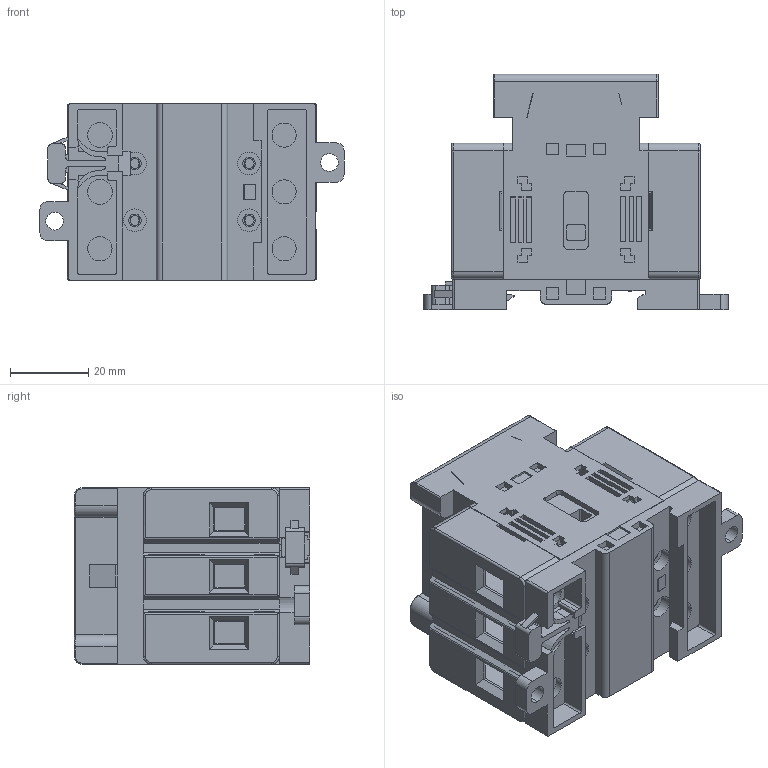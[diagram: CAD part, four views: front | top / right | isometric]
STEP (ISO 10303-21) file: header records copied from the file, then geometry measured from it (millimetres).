
FILE_DESCRIPTION((''),'2;1');
FILE_NAME('A','2017-04-13T',('DPoczon'),('Rockwell Automation'),'PRO/ENGINEER BY PARAMETRIC TECHNOLOGY CORPORATION, 2012480','PRO/ENGINEER BY PARAMETRIC TECHNOLOGY CORPORATION, 2012480','');
FILE_SCHEMA(('CONFIG_CONTROL_DESIGN'));
Products named in the file (1): A
Bounding box: 77.6 x 60.1 x 45.06 mm (x, y, z)
Volume: 68003.8 mm3; surface area: 91283.8 mm2
Topology: 7 solids, 8 shells, 2940 faces, 8541 edges, 5613 vertices
Faces by surface type: plane 1985, cylinder 803, cone 77, bspline 36, torus 26, sphere 12, extrusion 1
Entity records: 99649 total; most frequent: CARTESIAN_POINT 20846, ORIENTED_EDGE 17058, DIRECTION 15816, EDGE_CURVE 8529, VECTOR 6402, LINE 6401, VERTEX_POINT 5613, AXIS2_PLACEMENT_3D 4707
